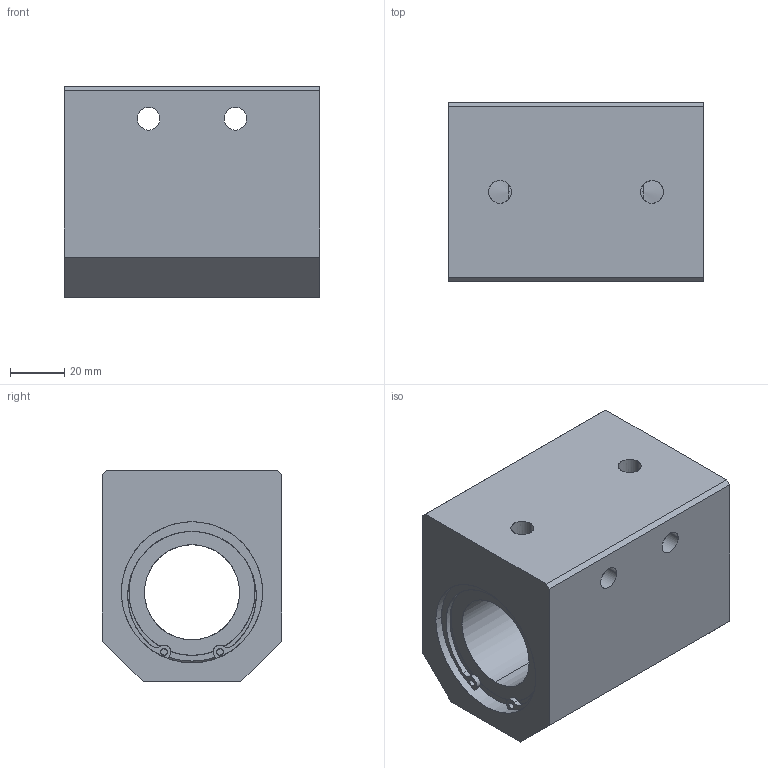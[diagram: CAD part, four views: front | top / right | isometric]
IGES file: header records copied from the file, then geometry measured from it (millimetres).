
Global section: file name: No Iges File Name specified; native system: AutoDesk Inventor R11.0; preprocessor: AutoDesk Inventor Iges Exporter R11.0; author: No Author specified; organization: No Organization specified; date: 20170921.152245; units: millimetre
Bounding box: 94 x 66 x 78 mm (x, y, z)
Surface area: 52405.7 mm2 (no closed solid volume)
Topology: 0 solids, 0 shells, 98 faces, 788 edges, 788 vertices
Faces by surface type: bspline 98
